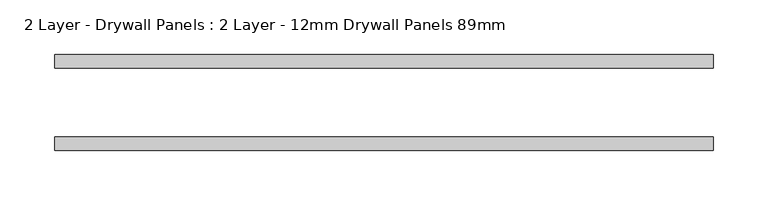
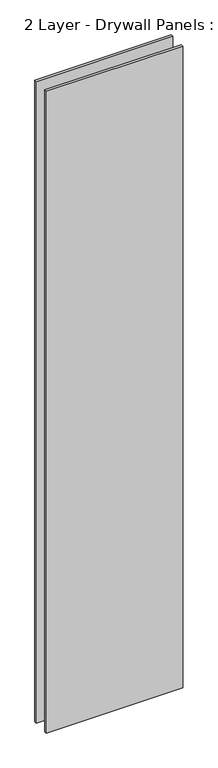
"""IFC4 building model written with IfcOpenShell, lengths in millimetres: plate geometry, 2 Layer - Drywall Panels : 2 Layer - 12mm Drywall Panels 89mm."""

from ifc_helpers import new_model, si_unit, origin, origin_with_axes, place, context, project, spatial, polyline, outline, extrude, source, transform, mapped, element, save


def plate_2_layer_drywall_panels_2_layer_12mm_drywall_panels_e6e5b326(model_context):
    return source(origin(), model_context, "Body", "SweptSolid", [
        extrude(outline(polyline([(299.2000002, 31.5), (-299.2000002, 31.5), (-299.2000002, 43.5), (299.2000002, 43.5), (299.2000002, 31.5)])), origin_with_axes(), (0.0, 0.0, 1.0), 2979.4),
        extrude(outline(polyline([(299.2000002, -31.5), (299.2000002, -43.5), (-299.2000002, -43.5), (-299.2000002, -31.5), (299.2000002, -31.5)])), origin_with_axes(), (0.0, 0.0, 1.0), 2979.4),
    ])


if __name__ == "__main__":
    model = new_model("IFC4")
    model_context = context("Model", 3, world=origin())
    ifc_project = project(units=[si_unit("LENGTHUNIT", "METRE", prefix="MILLI")], contexts=[model_context])
    site = spatial("IfcSite", under=ifc_project)
    building = spatial("IfcBuilding", under=site)
    placement = place(None, origin())
    plate_2_layer_drywall_panels_2_layer_12mm_drywall_panels_shape = plate_2_layer_drywall_panels_2_layer_12mm_drywall_panels_e6e5b326(model_context)
    element("IfcPlate", 1, ObjectType="2 Layer - Drywall Panels : 2 Layer - 12mm Drywall Panels 89mm", at=placement, inside=building, context=model_context, shape_type="MappedRepresentation", body=[
        mapped(plate_2_layer_drywall_panels_2_layer_12mm_drywall_panels_shape, transform((0.0, 0.0, 0.0), x_axis=(1.0, 0.0, 0.0), y_axis=(0.0, 1.0, 0.0), z_axis=(0.0, 0.0, 1.0))),
    ])
    save(model, "model.ifc")
